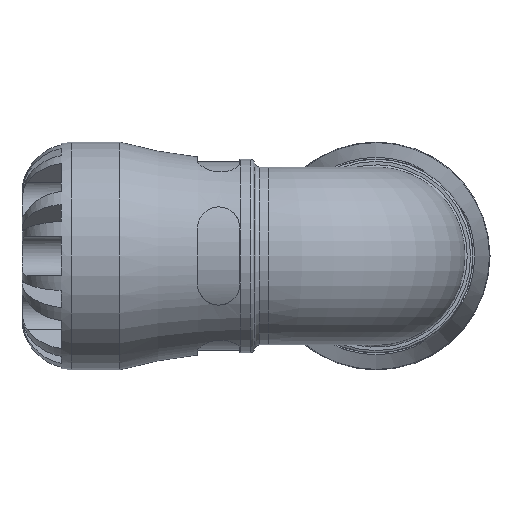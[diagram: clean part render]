
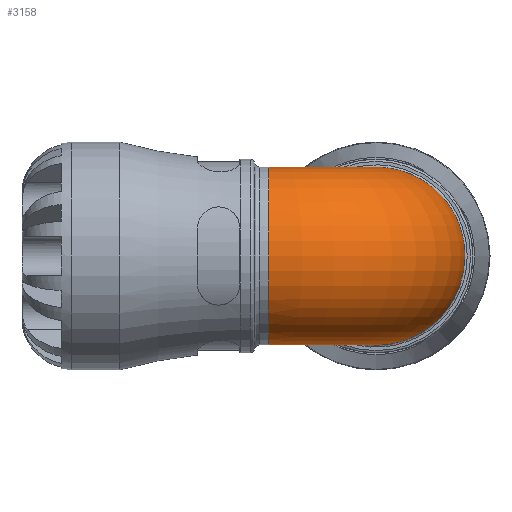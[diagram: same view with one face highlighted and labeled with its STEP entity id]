
A CAD part, left-side view. The second image highlights one B-rep face of the part: STEP entity #3158.
In plain terms, the highlighted toroidal (fillet/blend) face has major radius 22.12 mm and minor radius 18.33 mm.
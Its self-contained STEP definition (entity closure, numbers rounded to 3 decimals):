
#403=B_SPLINE_CURVE_WITH_KNOTS('',3,(#4730,#4731,#4732,#4733,#4734,#4735,
#4736,#4737,#4738,#4739,#4740,#4741,#4742,#4743,#4744,#4745,#4746,#4747,
#4748,#4749),.UNSPECIFIED.,.T.,.F.,(4,1,1,1,1,1,1,1,1,1,1,1,1,1,1,1,1,4),
(0.,0.776,1.551,2.327,3.102,
3.62,4.007,4.654,4.912,5.171,
5.688,6.205,6.981,7.756,8.532,
9.307,10.083,10.859),.UNSPECIFIED.);
#654=FACE_BOUND('',#890,.T.);
#689=FACE_OUTER_BOUND('',#889,.T.);
#889=EDGE_LOOP('',(#2044));
#890=EDGE_LOOP('',(#2045));
#1114=CIRCLE('',#3362,18.33);
#1279=VERTEX_POINT('',#4728);
#1283=VERTEX_POINT('',#4759);
#1577=EDGE_CURVE('',#1279,#1279,#403,.T.);
#1581=EDGE_CURVE('',#1283,#1283,#1114,.T.);
#2044=ORIENTED_EDGE('',*,*,#1577,.F.);
#2045=ORIENTED_EDGE('',*,*,#1581,.F.);
#2948=TOROIDAL_SURFACE('',#3361,22.12,18.33);
#3158=ADVANCED_FACE('',(#689,#654),#2948,.T.);
#3361=AXIS2_PLACEMENT_3D('',#4758,#3737,#3738);
#3362=AXIS2_PLACEMENT_3D('',#4760,#3739,#3740);
#3737=DIRECTION('center_axis',(0.,0.,1.));
#3738=DIRECTION('ref_axis',(1.,0.,0.));
#3739=DIRECTION('center_axis',(0.,1.,0.));
#3740=DIRECTION('ref_axis',(1.,0.,0.));
#4728=CARTESIAN_POINT('',(21.51,-18.325,0.));
#4730=CARTESIAN_POINT('Ctrl Pts',(21.51,-18.326,0.));
#4731=CARTESIAN_POINT('Ctrl Pts',(21.51,-18.326,-2.743));
#4732=CARTESIAN_POINT('Ctrl Pts',(21.509,-17.073,-8.229));
#4733=CARTESIAN_POINT('Ctrl Pts',(21.508,-11.808,-14.827));
#4734=CARTESIAN_POINT('Ctrl Pts',(21.505,-4.201,-18.484));
#4735=CARTESIAN_POINT('Ctrl Pts',(21.501,3.302,-18.478));
#4736=CARTESIAN_POINT('Ctrl Pts',(21.493,8.895,-16.275));
#4737=CARTESIAN_POINT('Ctrl Pts',(21.48,13.34,-12.999));
#4738=CARTESIAN_POINT('Ctrl Pts',(21.461,16.111,-9.261));
#4739=CARTESIAN_POINT('Ctrl Pts',(21.436,17.631,-5.424));
#4740=CARTESIAN_POINT('Ctrl Pts',(21.413,18.466,-1.85));
#4741=CARTESIAN_POINT('Ctrl Pts',(21.415,18.463,2.775));
#4742=CARTESIAN_POINT('Ctrl Pts',(21.462,16.526,8.956));
#4743=CARTESIAN_POINT('Ctrl Pts',(21.488,11.845,14.815));
#4744=CARTESIAN_POINT('Ctrl Pts',(21.5,4.239,18.479));
#4745=CARTESIAN_POINT('Ctrl Pts',(21.505,-4.201,18.484));
#4746=CARTESIAN_POINT('Ctrl Pts',(21.508,-11.809,14.827));
#4747=CARTESIAN_POINT('Ctrl Pts',(21.509,-17.074,8.228));
#4748=CARTESIAN_POINT('Ctrl Pts',(21.51,-18.326,2.743));
#4749=CARTESIAN_POINT('Ctrl Pts',(21.51,-18.326,0.));
#4758=CARTESIAN_POINT('Origin',(22.12,22.12,0.));
#4759=CARTESIAN_POINT('',(0.,22.12,18.33));
#4760=CARTESIAN_POINT('Origin',(0.,22.12,0.));
